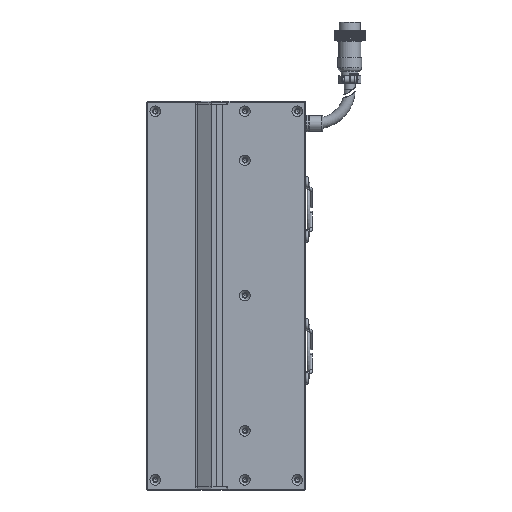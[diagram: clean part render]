
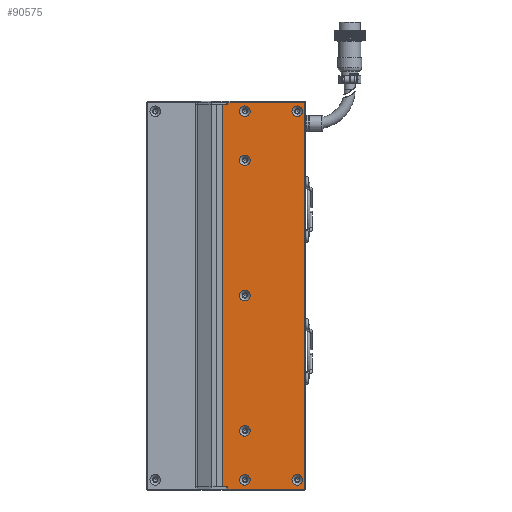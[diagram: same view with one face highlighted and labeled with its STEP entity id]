
A CAD part, left-side view. The second image highlights one B-rep face of the part: STEP entity #90575.
In plain terms, the highlighted planar face has unit normal (-1, 0, 0).
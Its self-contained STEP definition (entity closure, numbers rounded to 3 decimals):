
#454 = ORIENTED_EDGE ( 'NONE', *, *, #105285, .F. ) ;
#592 = VERTEX_POINT ( 'NONE', #102161 ) ;
#1944 = EDGE_CURVE ( 'NONE', #27544, #27544, #116207, .T. ) ;
#2040 = FACE_OUTER_BOUND ( 'NONE', #99116, .T. ) ;
#2127 = LINE ( 'NONE', #75629, #75616 ) ;
#4086 = CARTESIAN_POINT ( 'NONE',  ( -24.998, -26.5, 114.5 ) ) ;
#5598 = ORIENTED_EDGE ( 'NONE', *, *, #1944, .F. ) ;
#5735 = CARTESIAN_POINT ( 'NONE',  ( -24.998, -36.5, -105.85 ) ) ;
#5995 = CIRCLE ( 'NONE', #60599, 3.15 ) ;
#6656 = VECTOR ( 'NONE', #103832, 1000. ) ;
#8348 = DIRECTION ( 'NONE',  ( 0., 0., 1. ) ) ;
#8476 = DIRECTION ( 'NONE',  ( 0., -1., 0. ) ) ;
#9501 = FACE_BOUND ( 'NONE', #110517, .T. ) ;
#12533 = FACE_BOUND ( 'NONE', #61168, .T. ) ;
#12671 = LINE ( 'NONE', #13576, #54617 ) ;
#12898 = CARTESIAN_POINT ( 'NONE',  ( -24.998, -23.25, 113. ) ) ;
#13508 = AXIS2_PLACEMENT_3D ( 'NONE', #44086, #104031, #53758 ) ;
#13576 = CARTESIAN_POINT ( 'NONE',  ( -24.998, -72.5, 114.5 ) ) ;
#15017 = CIRCLE ( 'NONE', #20304, 3.15 ) ;
#15315 = CARTESIAN_POINT ( 'NONE',  ( -24.998, -72.5, -113. ) ) ;
#15788 = CARTESIAN_POINT ( 'NONE',  ( -24.998, -36.5, 3.15 ) ) ;
#16193 = CARTESIAN_POINT ( 'NONE',  ( -24.998, -36.5, -76.85 ) ) ;
#17217 = VECTOR ( 'NONE', #82451, 1000. ) ;
#19059 = LINE ( 'NONE', #23209, #86575 ) ;
#19639 = VECTOR ( 'NONE', #8476, 1000. ) ;
#20304 = AXIS2_PLACEMENT_3D ( 'NONE', #119656, #22919, #53119 ) ;
#21877 = ORIENTED_EDGE ( 'NONE', *, *, #61884, .T. ) ;
#21928 = CIRCLE ( 'NONE', #86478, 3.15 ) ;
#22919 = DIRECTION ( 'NONE',  ( -1., 0., 0. ) ) ;
#23209 = CARTESIAN_POINT ( 'NONE',  ( -24.998, -72., 113. ) ) ;
#24144 = CIRCLE ( 'NONE', #13508, 3.15 ) ;
#26339 = EDGE_LOOP ( 'NONE', ( #85670 ) ) ;
#27186 = VERTEX_POINT ( 'NONE', #16193 ) ;
#27544 = VERTEX_POINT ( 'NONE', #114335 ) ;
#28750 = VERTEX_POINT ( 'NONE', #5735 ) ;
#30531 = CARTESIAN_POINT ( 'NONE',  ( -24.998, -26.5, -113. ) ) ;
#31248 = ORIENTED_EDGE ( 'NONE', *, *, #95253, .F. ) ;
#31669 = VERTEX_POINT ( 'NONE', #15788 ) ;
#33559 = CARTESIAN_POINT ( 'NONE',  ( -24.998, -26.5, -106. ) ) ;
#34928 = FACE_BOUND ( 'NONE', #118759, .T. ) ;
#35405 = VECTOR ( 'NONE', #48164, 1000. ) ;
#35865 = VECTOR ( 'NONE', #87686, 1000. ) ;
#36202 = ORIENTED_EDGE ( 'NONE', *, *, #123500, .T. ) ;
#36797 = EDGE_LOOP ( 'NONE', ( #70467 ) ) ;
#37207 = CARTESIAN_POINT ( 'NONE',  ( -24.998, -36.5, -109. ) ) ;
#39128 = AXIS2_PLACEMENT_3D ( 'NONE', #53151, #51947, #62814 ) ;
#42033 = DIRECTION ( 'NONE',  ( -1., 0., 0. ) ) ;
#43455 = AXIS2_PLACEMENT_3D ( 'NONE', #121106, #44069, #54146 ) ;
#44069 = DIRECTION ( 'NONE',  ( -1., 0., 0. ) ) ;
#44086 = CARTESIAN_POINT ( 'NONE',  ( -24.998, -67.5, -109. ) ) ;
#44200 = LINE ( 'NONE', #122189, #6656 ) ;
#45292 = VERTEX_POINT ( 'NONE', #80883 ) ;
#46069 = DIRECTION ( 'NONE',  ( -1., 0., 0. ) ) ;
#46122 = ORIENTED_EDGE ( 'NONE', *, *, #100574, .T. ) ;
#46496 = CARTESIAN_POINT ( 'NONE',  ( -24.998, -72., -114.5 ) ) ;
#47960 = LINE ( 'NONE', #33559, #35865 ) ;
#48164 = DIRECTION ( 'NONE',  ( 0., -1., 0. ) ) ;
#51947 = DIRECTION ( 'NONE',  ( -1., 0., 0. ) ) ;
#52773 = DIRECTION ( 'NONE',  ( 0., 0., -1. ) ) ;
#53119 = DIRECTION ( 'NONE',  ( 0., 0., 1. ) ) ;
#53151 = CARTESIAN_POINT ( 'NONE',  ( -24.998, -67.5, 109. ) ) ;
#53354 = CARTESIAN_POINT ( 'NONE',  ( -24.998, -26.5, -114.5 ) ) ;
#53758 = DIRECTION ( 'NONE',  ( 0., 0., 1. ) ) ;
#54146 = DIRECTION ( 'NONE',  ( 0., 0., 1. ) ) ;
#54617 = VECTOR ( 'NONE', #61451, 1000. ) ;
#55845 = CARTESIAN_POINT ( 'NONE',  ( -24.998, -72.5, -114.5 ) ) ;
#56267 = EDGE_LOOP ( 'NONE', ( #71328 ) ) ;
#56803 = ORIENTED_EDGE ( 'NONE', *, *, #122052, .F. ) ;
#56831 = DIRECTION ( 'NONE',  ( -1., 0., 0. ) ) ;
#59055 = EDGE_CURVE ( 'NONE', #106719, #102793, #99218, .T. ) ;
#59092 = FACE_BOUND ( 'NONE', #82999, .T. ) ;
#60599 = AXIS2_PLACEMENT_3D ( 'NONE', #37207, #46069, #8348 ) ;
#61168 = EDGE_LOOP ( 'NONE', ( #56803 ) ) ;
#61429 = ORIENTED_EDGE ( 'NONE', *, *, #77755, .T. ) ;
#61451 = DIRECTION ( 'NONE',  ( 0., 1., 0. ) ) ;
#61884 = EDGE_CURVE ( 'NONE', #122377, #106719, #47960, .T. ) ;
#62814 = DIRECTION ( 'NONE',  ( 0., 0., 1. ) ) ;
#66830 = ORIENTED_EDGE ( 'NONE', *, *, #115825, .T. ) ;
#66865 = CIRCLE ( 'NONE', #43455, 3.15 ) ;
#67832 = VERTEX_POINT ( 'NONE', #110921 ) ;
#68105 = AXIS2_PLACEMENT_3D ( 'NONE', #102492, #56831, #104568 ) ;
#69935 = CIRCLE ( 'NONE', #68105, 3.15 ) ;
#70467 = ORIENTED_EDGE ( 'NONE', *, *, #101625, .F. ) ;
#71293 = VERTEX_POINT ( 'NONE', #95323 ) ;
#71328 = ORIENTED_EDGE ( 'NONE', *, *, #96158, .F. ) ;
#72489 = PLANE ( 'NONE',  #80448 ) ;
#75557 = EDGE_CURVE ( 'NONE', #45292, #45292, #21928, .T. ) ;
#75602 = VERTEX_POINT ( 'NONE', #99481 ) ;
#75616 = VECTOR ( 'NONE', #94964, 1000. ) ;
#75629 = CARTESIAN_POINT ( 'NONE',  ( -24.998, -23.25, -113. ) ) ;
#76649 = CARTESIAN_POINT ( 'NONE',  ( -24.998, -72.5, 113. ) ) ;
#77755 = EDGE_CURVE ( 'NONE', #71293, #122377, #90771, .T. ) ;
#80061 = FACE_BOUND ( 'NONE', #56267, .T. ) ;
#80448 = AXIS2_PLACEMENT_3D ( 'NONE', #110125, #101371, #52773 ) ;
#80606 = EDGE_CURVE ( 'NONE', #71293, #101444, #2127, .T. ) ;
#80883 = CARTESIAN_POINT ( 'NONE',  ( -24.998, -36.5, 83.15 ) ) ;
#81748 = VERTEX_POINT ( 'NONE', #4086 ) ;
#82451 = DIRECTION ( 'NONE',  ( 0., -1., 0. ) ) ;
#82999 = EDGE_LOOP ( 'NONE', ( #454 ) ) ;
#85300 = EDGE_CURVE ( 'NONE', #101444, #75602, #114865, .T. ) ;
#85670 = ORIENTED_EDGE ( 'NONE', *, *, #75557, .F. ) ;
#86478 = AXIS2_PLACEMENT_3D ( 'NONE', #118256, #42033, #109078 ) ;
#86575 = VECTOR ( 'NONE', #90305, 1000. ) ;
#87553 = FACE_BOUND ( 'NONE', #26339, .T. ) ;
#87686 = DIRECTION ( 'NONE',  ( 0., 0., -1. ) ) ;
#90305 = DIRECTION ( 'NONE',  ( 0., 0., 1. ) ) ;
#90575 = ADVANCED_FACE ( 'NONE', ( #59092, #80061, #34928, #9501, #12533, #98077, #87553, #2040 ), #72489, .F. ) ;
#90771 = LINE ( 'NONE', #15315, #17217 ) ;
#94205 = CARTESIAN_POINT ( 'NONE',  ( -24.998, -67.5, -105.85 ) ) ;
#94964 = DIRECTION ( 'NONE',  ( 0., 0., 1. ) ) ;
#95253 = EDGE_CURVE ( 'NONE', #67832, #67832, #15017, .T. ) ;
#95323 = CARTESIAN_POINT ( 'NONE',  ( -24.998, -23.25, -113. ) ) ;
#96158 = EDGE_CURVE ( 'NONE', #28750, #28750, #5995, .T. ) ;
#98077 = FACE_BOUND ( 'NONE', #36797, .T. ) ;
#99116 = EDGE_LOOP ( 'NONE', ( #61429, #21877, #117369, #46122, #66830, #36202, #110706, #104784 ) ) ;
#99218 = LINE ( 'NONE', #55845, #19639 ) ;
#99481 = CARTESIAN_POINT ( 'NONE',  ( -24.998, -26.5, 113. ) ) ;
#100574 = EDGE_CURVE ( 'NONE', #102793, #592, #19059, .T. ) ;
#101371 = DIRECTION ( 'NONE',  ( 1., 0., 0. ) ) ;
#101444 = VERTEX_POINT ( 'NONE', #12898 ) ;
#101625 = EDGE_CURVE ( 'NONE', #31669, #31669, #69935, .T. ) ;
#102161 = CARTESIAN_POINT ( 'NONE',  ( -24.998, -72., 114.5 ) ) ;
#102492 = CARTESIAN_POINT ( 'NONE',  ( -24.998, -36.5, 0. ) ) ;
#102793 = VERTEX_POINT ( 'NONE', #46496 ) ;
#103832 = DIRECTION ( 'NONE',  ( 0., 0., -1. ) ) ;
#104031 = DIRECTION ( 'NONE',  ( -1., 0., 0. ) ) ;
#104568 = DIRECTION ( 'NONE',  ( 0., 0., 1. ) ) ;
#104784 = ORIENTED_EDGE ( 'NONE', *, *, #80606, .F. ) ;
#105285 = EDGE_CURVE ( 'NONE', #120139, #120139, #24144, .T. ) ;
#106719 = VERTEX_POINT ( 'NONE', #53354 ) ;
#109078 = DIRECTION ( 'NONE',  ( 0., 0., 1. ) ) ;
#110125 = CARTESIAN_POINT ( 'NONE',  ( -24.998, -72.5, 113. ) ) ;
#110517 = EDGE_LOOP ( 'NONE', ( #5598 ) ) ;
#110706 = ORIENTED_EDGE ( 'NONE', *, *, #85300, .F. ) ;
#110921 = CARTESIAN_POINT ( 'NONE',  ( -24.998, -36.5, 112.15 ) ) ;
#114335 = CARTESIAN_POINT ( 'NONE',  ( -24.998, -67.5, 112.15 ) ) ;
#114865 = LINE ( 'NONE', #76649, #35405 ) ;
#115825 = EDGE_CURVE ( 'NONE', #592, #81748, #12671, .T. ) ;
#116207 = CIRCLE ( 'NONE', #39128, 3.15 ) ;
#117369 = ORIENTED_EDGE ( 'NONE', *, *, #59055, .T. ) ;
#118256 = CARTESIAN_POINT ( 'NONE',  ( -24.998, -36.5, 80. ) ) ;
#118759 = EDGE_LOOP ( 'NONE', ( #31248 ) ) ;
#119656 = CARTESIAN_POINT ( 'NONE',  ( -24.998, -36.5, 109. ) ) ;
#120139 = VERTEX_POINT ( 'NONE', #94205 ) ;
#121106 = CARTESIAN_POINT ( 'NONE',  ( -24.998, -36.5, -80. ) ) ;
#122052 = EDGE_CURVE ( 'NONE', #27186, #27186, #66865, .T. ) ;
#122189 = CARTESIAN_POINT ( 'NONE',  ( -24.998, -26.5, 106. ) ) ;
#122377 = VERTEX_POINT ( 'NONE', #30531 ) ;
#123500 = EDGE_CURVE ( 'NONE', #81748, #75602, #44200, .T. ) ;
